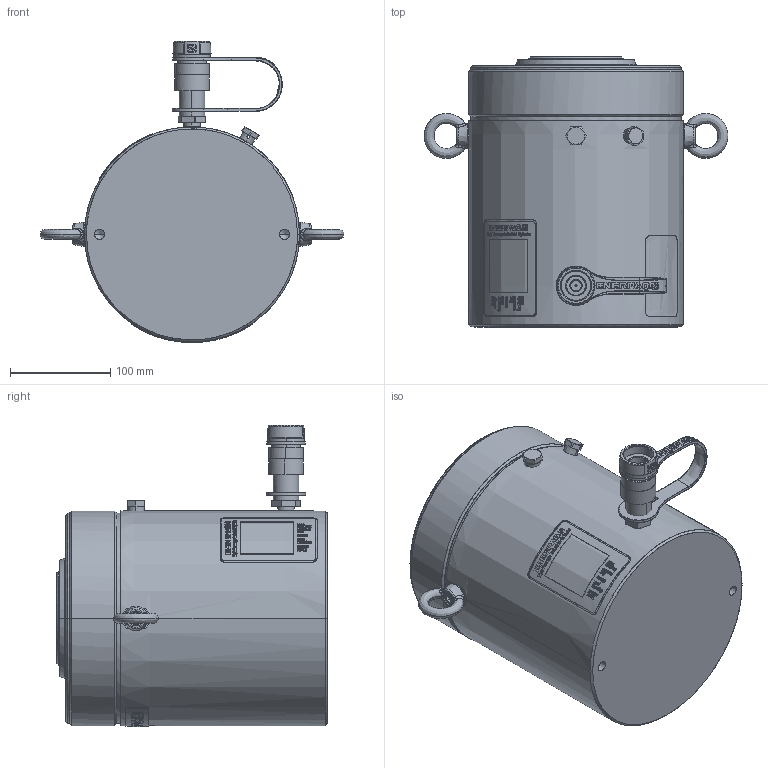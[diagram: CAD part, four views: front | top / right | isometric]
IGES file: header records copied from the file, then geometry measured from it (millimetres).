
Start section:  PTC IGES file: hcg1504.igs
Global section: file name: hcg1504.igs; native system: Creo Parametric by PTC Inc.; preprocessor: 2015290; author: Akhilesh.Subrahmanya; organization: Unknown; date: 20170707.135450; units: millimetre
Bounding box: 303.94 x 270 x 301.12 mm (x, y, z)
Surface area: 518269.7 mm2 (no closed solid volume)
Topology: 0 solids, 0 shells, 805 faces, 6719 edges, 6706 vertices
Faces by surface type: revolution 437, bspline 356, extrusion 12
